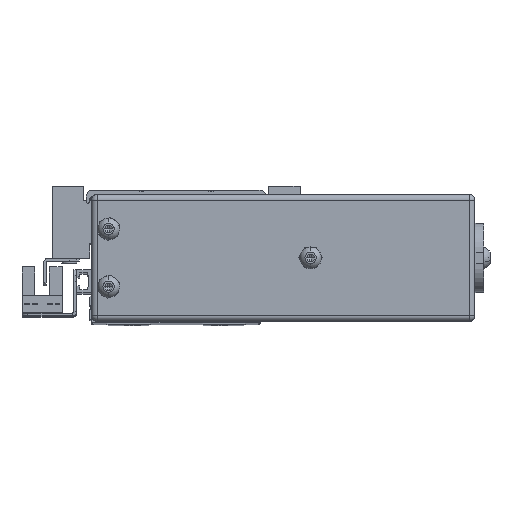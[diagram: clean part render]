
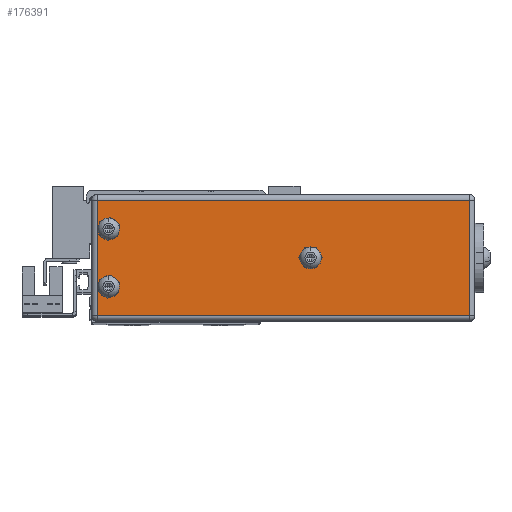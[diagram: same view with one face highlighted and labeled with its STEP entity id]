
A CAD part, top view. The second image highlights one B-rep face of the part: STEP entity #176391.
In plain terms, the highlighted planar face has unit normal (0, 0, 1).
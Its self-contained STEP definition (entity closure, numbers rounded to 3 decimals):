
#1718 = EDGE_CURVE ( 'NONE', #81974, #137550, #156843, .T. ) ;
#2728 = DIRECTION ( 'NONE',  ( -1., 0., 0. ) ) ;
#3660 = DIRECTION ( 'NONE',  ( 0., -1., 0. ) ) ;
#4191 = VERTEX_POINT ( 'NONE', #103344 ) ;
#6044 = CARTESIAN_POINT ( 'NONE',  ( -110.161, 20.921, 163. ) ) ;
#6970 = AXIS2_PLACEMENT_3D ( 'NONE', #41769, #167051, #150578 ) ;
#10093 = AXIS2_PLACEMENT_3D ( 'NONE', #91606, #49577, #78208 ) ;
#11895 = EDGE_CURVE ( 'NONE', #92147, #87030, #102326, .T. ) ;
#12732 = EDGE_LOOP ( 'NONE', ( #91112, #36477 ) ) ;
#14509 = EDGE_CURVE ( 'NONE', #157951, #58102, #39669, .T. ) ;
#14728 = CARTESIAN_POINT ( 'NONE',  ( -107.911, 0.921, 163. ) ) ;
#18311 = EDGE_LOOP ( 'NONE', ( #162505, #48372, #51291, #54067 ) ) ;
#20265 = CIRCLE ( 'NONE', #6970, 2.25 ) ;
#36477 = ORIENTED_EDGE ( 'NONE', *, *, #121754, .F. ) ;
#37966 = DIRECTION ( 'NONE',  ( 1., 0., 0. ) ) ;
#38134 = CARTESIAN_POINT ( 'NONE',  ( -116.161, -11.079, 163. ) ) ;
#39669 = CIRCLE ( 'NONE', #162823, 2.25 ) ;
#41761 = CARTESIAN_POINT ( 'NONE',  ( -110.161, 0.921, 163. ) ) ;
#41769 = CARTESIAN_POINT ( 'NONE',  ( -40.161, 10.921, 163. ) ) ;
#42636 = LINE ( 'NONE', #45000, #46957 ) ;
#45000 = CARTESIAN_POINT ( 'NONE',  ( 14.839, -11.079, 163. ) ) ;
#46957 = VECTOR ( 'NONE', #172066, 1000. ) ;
#47889 = CIRCLE ( 'NONE', #151742, 2.25 ) ;
#48372 = ORIENTED_EDGE ( 'NONE', *, *, #131810, .T. ) ;
#49228 = FACE_BOUND ( 'NONE', #142234, .T. ) ;
#49577 = DIRECTION ( 'NONE',  ( 0., 0., 1. ) ) ;
#50476 = VECTOR ( 'NONE', #64693, 1000. ) ;
#51291 = ORIENTED_EDGE ( 'NONE', *, *, #11895, .T. ) ;
#53017 = CIRCLE ( 'NONE', #170263, 2.25 ) ;
#54067 = ORIENTED_EDGE ( 'NONE', *, *, #84168, .T. ) ;
#56311 = EDGE_CURVE ( 'NONE', #4191, #131876, #86676, .T. ) ;
#57098 = CARTESIAN_POINT ( 'NONE',  ( -114.161, -11.079, 163. ) ) ;
#58102 = VERTEX_POINT ( 'NONE', #14728 ) ;
#60688 = DIRECTION ( 'NONE',  ( 0., 0., 1. ) ) ;
#61489 = EDGE_CURVE ( 'NONE', #98040, #63449, #42636, .T. ) ;
#63449 = VERTEX_POINT ( 'NONE', #93781 ) ;
#64693 = DIRECTION ( 'NONE',  ( 1., 0., 0. ) ) ;
#64847 = EDGE_CURVE ( 'NONE', #58102, #157951, #53017, .T. ) ;
#66506 = ORIENTED_EDGE ( 'NONE', *, *, #56311, .F. ) ;
#68010 = DIRECTION ( 'NONE',  ( 0., 0., 1. ) ) ;
#70211 = CARTESIAN_POINT ( 'NONE',  ( -114.161, -9.079, 163. ) ) ;
#71966 = CARTESIAN_POINT ( 'NONE',  ( -116.161, 30.921, 163. ) ) ;
#76957 = CARTESIAN_POINT ( 'NONE',  ( -42.411, 10.921, 163. ) ) ;
#78208 = DIRECTION ( 'NONE',  ( 1., 0., 0. ) ) ;
#78906 = PLANE ( 'NONE',  #139493 ) ;
#79838 = CARTESIAN_POINT ( 'NONE',  ( -116.161, -9.079, 163. ) ) ;
#80999 = LINE ( 'NONE', #71966, #109275 ) ;
#81974 = VERTEX_POINT ( 'NONE', #117440 ) ;
#84168 = EDGE_CURVE ( 'NONE', #87030, #98040, #87521, .T. ) ;
#86676 = CIRCLE ( 'NONE', #155589, 2.25 ) ;
#87030 = VERTEX_POINT ( 'NONE', #70211 ) ;
#87521 = LINE ( 'NONE', #79838, #50476 ) ;
#89980 = ORIENTED_EDGE ( 'NONE', *, *, #161491, .F. ) ;
#91112 = ORIENTED_EDGE ( 'NONE', *, *, #1718, .F. ) ;
#91606 = CARTESIAN_POINT ( 'NONE',  ( -40.161, 10.921, 163. ) ) ;
#92132 = DIRECTION ( 'NONE',  ( 0., 0., 1. ) ) ;
#92147 = VERTEX_POINT ( 'NONE', #128256 ) ;
#93696 = CARTESIAN_POINT ( 'NONE',  ( -112.411, 0.921, 163. ) ) ;
#93781 = CARTESIAN_POINT ( 'NONE',  ( 14.839, 30.921, 163. ) ) ;
#93844 = CARTESIAN_POINT ( 'NONE',  ( 14.839, -9.079, 163. ) ) ;
#98040 = VERTEX_POINT ( 'NONE', #93844 ) ;
#101144 = CARTESIAN_POINT ( 'NONE',  ( -112.411, 20.921, 163. ) ) ;
#102326 = LINE ( 'NONE', #57098, #145807 ) ;
#103344 = CARTESIAN_POINT ( 'NONE',  ( -107.911, 20.921, 163. ) ) ;
#107764 = EDGE_LOOP ( 'NONE', ( #66506, #89980 ) ) ;
#109275 = VECTOR ( 'NONE', #2728, 1000. ) ;
#109280 = DIRECTION ( 'NONE',  ( 1., 0., 0. ) ) ;
#111188 = CARTESIAN_POINT ( 'NONE',  ( -110.161, 0.921, 163. ) ) ;
#113452 = ORIENTED_EDGE ( 'NONE', *, *, #64847, .F. ) ;
#116808 = FACE_BOUND ( 'NONE', #12732, .T. ) ;
#117440 = CARTESIAN_POINT ( 'NONE',  ( -37.911, 10.921, 163. ) ) ;
#121754 = EDGE_CURVE ( 'NONE', #137550, #81974, #20265, .T. ) ;
#128256 = CARTESIAN_POINT ( 'NONE',  ( -114.161, 30.921, 163. ) ) ;
#131810 = EDGE_CURVE ( 'NONE', #63449, #92147, #80999, .T. ) ;
#131876 = VERTEX_POINT ( 'NONE', #101144 ) ;
#137196 = DIRECTION ( 'NONE',  ( 0., 0., 1. ) ) ;
#137550 = VERTEX_POINT ( 'NONE', #76957 ) ;
#139493 = AXIS2_PLACEMENT_3D ( 'NONE', #38134, #161604, #163416 ) ;
#139683 = DIRECTION ( 'NONE',  ( 1., 0., 0. ) ) ;
#142234 = EDGE_LOOP ( 'NONE', ( #113452, #172199 ) ) ;
#145807 = VECTOR ( 'NONE', #3660, 1000. ) ;
#147925 = CARTESIAN_POINT ( 'NONE',  ( -110.161, 20.921, 163. ) ) ;
#150578 = DIRECTION ( 'NONE',  ( 1., 0., 0. ) ) ;
#151742 = AXIS2_PLACEMENT_3D ( 'NONE', #6044, #60688, #157979 ) ;
#155589 = AXIS2_PLACEMENT_3D ( 'NONE', #147925, #92132, #37966 ) ;
#156843 = CIRCLE ( 'NONE', #10093, 2.25 ) ;
#157951 = VERTEX_POINT ( 'NONE', #93696 ) ;
#157979 = DIRECTION ( 'NONE',  ( 1., 0., 0. ) ) ;
#161491 = EDGE_CURVE ( 'NONE', #131876, #4191, #47889, .T. ) ;
#161604 = DIRECTION ( 'NONE',  ( 0., 0., -1. ) ) ;
#162505 = ORIENTED_EDGE ( 'NONE', *, *, #61489, .T. ) ;
#162823 = AXIS2_PLACEMENT_3D ( 'NONE', #41761, #137196, #109280 ) ;
#163416 = DIRECTION ( 'NONE',  ( -1., 0., 0. ) ) ;
#164646 = FACE_OUTER_BOUND ( 'NONE', #18311, .T. ) ;
#167051 = DIRECTION ( 'NONE',  ( 0., 0., 1. ) ) ;
#170263 = AXIS2_PLACEMENT_3D ( 'NONE', #111188, #68010, #139683 ) ;
#172066 = DIRECTION ( 'NONE',  ( 0., 1., 0. ) ) ;
#172199 = ORIENTED_EDGE ( 'NONE', *, *, #14509, .F. ) ;
#173341 = FACE_BOUND ( 'NONE', #107764, .T. ) ;
#176391 = ADVANCED_FACE ( 'NONE', ( #116808, #49228, #173341, #164646 ), #78906, .F. ) ;
